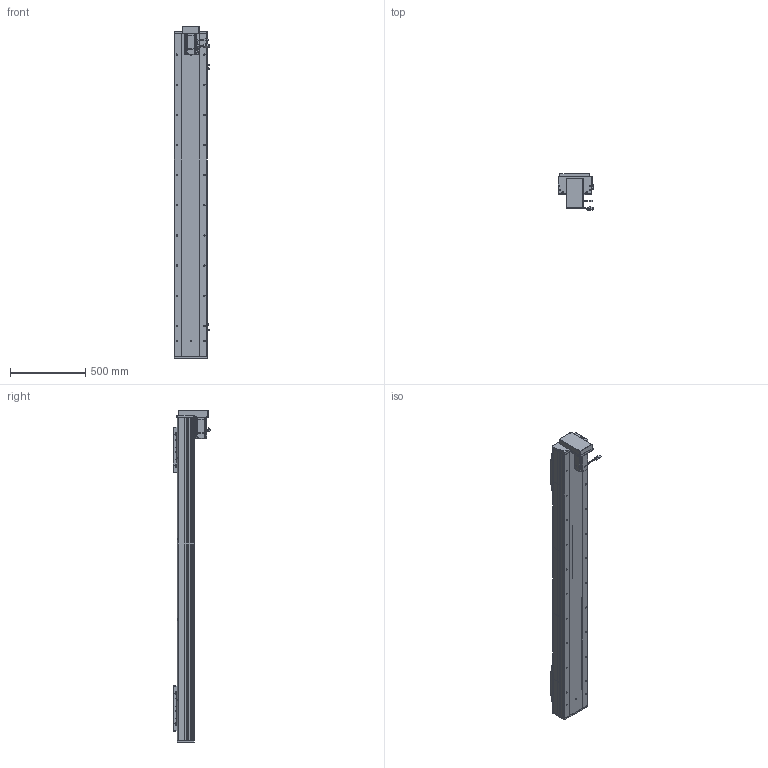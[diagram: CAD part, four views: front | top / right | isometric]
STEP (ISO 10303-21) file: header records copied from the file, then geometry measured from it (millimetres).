
FILE_DESCRIPTION (( 'STEP AP203' ), '1' );
FILE_NAME ('RY220F-L2525-800-BK-邧嶺.SLDASM_1700.step', '2022-08-06T08:08:25', ( '' ), ( '' ), 'SwSTEP 2.0', 'SolidWorks 2016', '' );
FILE_SCHEMA (( 'CONFIG_CONTROL_DESIGN' ));
Length unit declared in the file: millimetre
Products named in the file (15): RY220F蛌殏菁釱-800-邧嶺_1700; RY220F-滅鳥奻裔; RY220狟殏萇儂欶; RY220F臏賑釱25-32佪裝; RY220F-蛌殏奻裔啣-800_1700; 滅袉蝶18-24; 覜茼ん672; RY220F-詩湍揤踡輸; RY220F-祥凄詩湍-蛌殏-800_1700; RY220狟殏萇儂假蚾啣; RY220F綴裔啣; RY220F-L2525-800-BK-邧嶺.SLDASM_1700; 侐源滅袉蝶; 怢湛750W_ECMA-CX0807ES; RY220F-672覜茼んえ
Assembly tree (24 placements, depth 2):
  RY220F-L2525-800-BK-邧嶺.SLDASM_1700
    RY220F蛌殏菁釱-800-邧嶺_1700
    RY220F-蛌殏奻裔啣-800_1700  x2
    怢湛750W_ECMA-CX0807ES
    RY220F臏賑釱25-32佪裝  x2
    RY220F-滅鳥奻裔  x2
    滅袉蝶18-24  x3
    RY220F綴裔啣
    RY220F-祥凄詩湍-蛌殏-800_1700
    RY220F-詩湍揤踡輸  x2
    覜茼ん672  x3
    RY220F-672覜茼んえ  x2
    侐源滅袉蝶  x2
    RY220狟殏萇儂假蚾啣
    RY220狟殏萇儂欶
Bounding box: 237.27 x 247.24 x 2203 mm (x, y, z)
Volume: 19218039.1 mm3; surface area: 5055145.1 mm2
Topology: 25 solids, 25 shells, 2883 faces, 7818 edges, 4809 vertices
Faces by surface type: cylinder 1294, plane 1062, cone 456, bspline 45, sphere 16, torus 10
Entity records: 71749 total; most frequent: CARTESIAN_POINT 19163, ORIENTED_EDGE 10594, DIRECTION 10397, EDGE_CURVE 5297, AXIS2_PLACEMENT_3D 3710, VERTEX_POINT 3425, LINE 2977, VECTOR 2977
